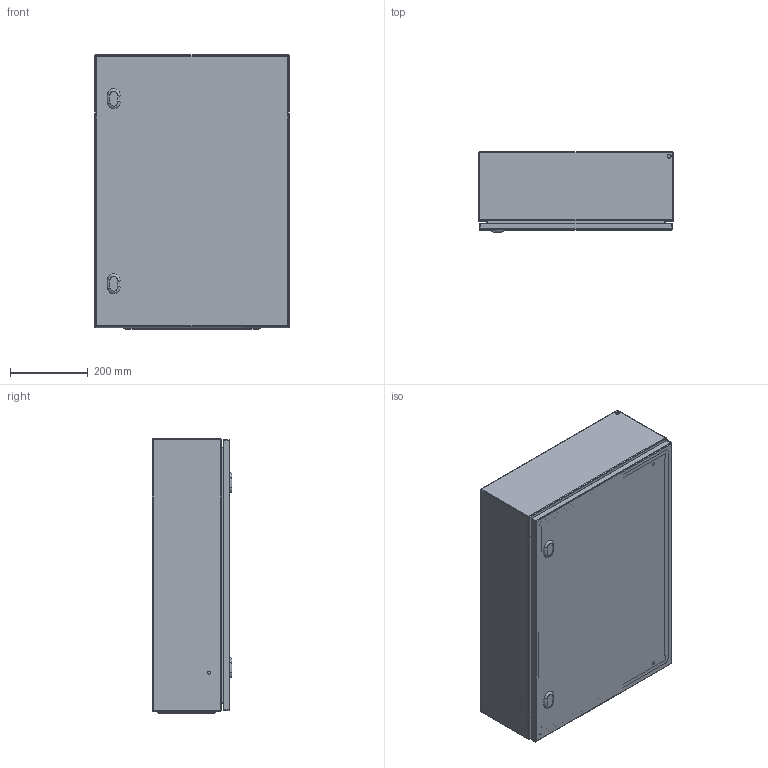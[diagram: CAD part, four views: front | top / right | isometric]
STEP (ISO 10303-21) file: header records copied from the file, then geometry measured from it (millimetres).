
FILE_DESCRIPTION(/* description */ ('STEP AP214'),/* implementation_level */ '2;1');
FILE_NAME(/* name */ 'EC050720-LOD400',/* time_stamp */ '2025-07-31T13:34:44+02:00',/* author */ ('License CC BY-ND 4.0'),/* organization */ ('CADENAS'),/* preprocessor_version */ 'ST-DEVELOPER v19.3',/* originating_system */ 'PARTsolutions',/* authorisation */ ' ');
FILE_SCHEMA (('AUTOMOTIVE_DESIGN {1 0 10303 214 3 1 1}'));
Length unit declared in the file: millimetre
Products named in the file (5): EC050720-LOD400; EC050720-LOD400_cabinet; EC050720-LOD400_door; EC050720-LOD400_bottom_plate; EC050720-LOD400_inner_plate
Assembly tree (4 placements, depth 2):
  EC050720-LOD400
    EC050720-LOD400_cabinet
    EC050720-LOD400_door
    EC050720-LOD400_bottom_plate
    EC050720-LOD400_inner_plate
Bounding box: 500 x 205 x 704 mm (x, y, z)
Volume: 2725613.6 mm3; surface area: 3226690.5 mm2
Topology: 4 solids, 4 shells, 554 faces, 1352 edges, 882 vertices
Faces by surface type: cylinder 232, plane 228, torus 48, cone 46
Full cylindrical faces by diameter (mm): 1 x48, 4.5 x50, 5 x4, 5.5 x4, 6 x4, 7 x4, 8 x12, 10 x10, 14 x4
Entity records: 15391 total; most frequent: DIRECTION 2818, CARTESIAN_POINT 2483, ORIENTED_EDGE 2204, AXIS2_PLACEMENT_3D 1157, EDGE_CURVE 1102, EDGE_LOOP 982, FACE_BOUND 982, VERTEX_POINT 822
